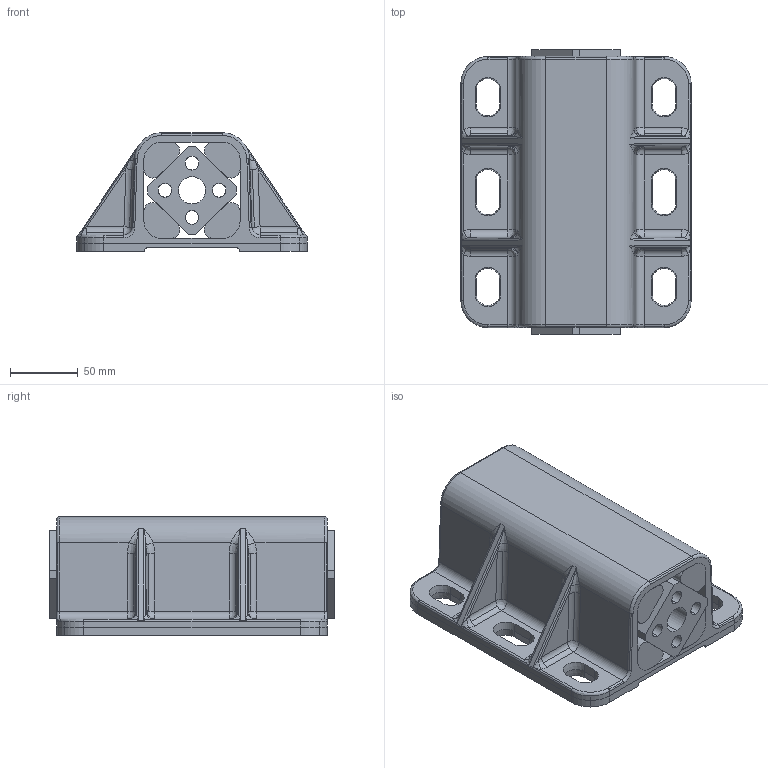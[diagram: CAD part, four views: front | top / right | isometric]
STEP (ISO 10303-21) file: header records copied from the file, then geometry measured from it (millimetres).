
FILE_DESCRIPTION((''),'2;1');
FILE_NAME('\\rostaofc\data\uw\save\daten_f\Normprogramm 3D\Gummifederelemente\DW-A50x200_01101014.stp','2005-01-17T08:40:23',('uw'),(''),'Autodesk Inventor 8','Autodesk Inventor 8','');
FILE_SCHEMA(('AUTOMOTIVE_DESIGN { 1 0 10303 214 1 1 1 1 }'));
Length unit declared in the file: millimetre
Products named in the file (4): ROSTA-Gummifederelement DW-A50x200; 3_4_7958-001; 3_4_8068-001; 3_4_8068-002
Assembly tree (6 placements, depth 2):
  ROSTA-Gummifederelement DW-A50x200
    3_4_7958-001
    3_4_8068-001
    3_4_8068-002  x4
Bounding box: 170 x 210 x 87.5 mm (x, y, z)
Volume: 1454056.2 mm3; surface area: 316605.8 mm2
Topology: 6 solids, 6 shells, 352 faces, 868 edges, 508 vertices
Faces by surface type: cylinder 132, plane 108, bspline 80, cone 20, torus 12
Entity records: 11931 total; most frequent: CARTESIAN_POINT 4200, DIRECTION 1648, ORIENTED_EDGE 1580, EDGE_CURVE 790, AXIS2_PLACEMENT_3D 624, VERTEX_POINT 472, VECTOR 400, LINE 400
